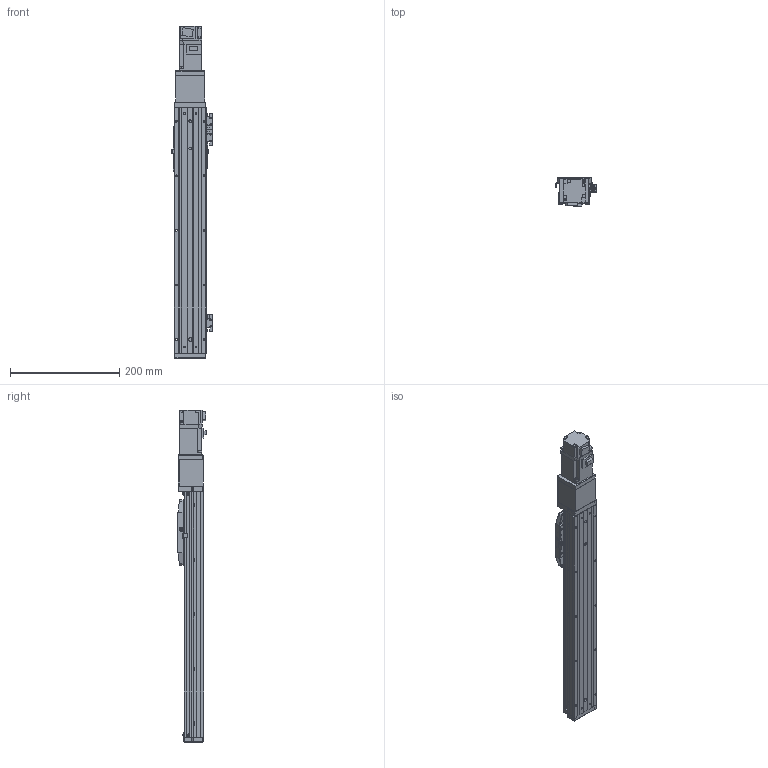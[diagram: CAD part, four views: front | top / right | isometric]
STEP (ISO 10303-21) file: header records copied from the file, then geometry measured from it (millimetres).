
FILE_DESCRIPTION (( 'STEP AP203' ), '1' );
FILE_NAME ('CTHA50-300-BC-M10-C4L.STEP', '2022-09-28T08:38:33', ( '微软用户' ), ( '微软中国' ), 'SwSTEP 2.0', 'SolidWorks 2020', '' );
FILE_SCHEMA (( 'CONFIG_CONTROL_DESIGN' ));
Length unit declared in the file: millimetre
Products named in the file (20): CTHA50-002; CTHA50-031; CTHA60-021; GBT 70.1-M4×12; KTHA50-005; CTHA50-027; CTHA60-016; CTHA50-013; CTHA60-017; EE_SX911P_R; KTHA50-004; GB¨uT 70.2-M3¡Á6_M3¡Á6; HG-KR13（三菱）; CTHA50-006-2_CTHA60-006-2; KTHA50-001_450; CTHA50-030; GBT77-2000 M3×3; CTHA50-300-BC-M10-C4L; GBT 70.1-M3℅6; GBT 70.3-M3℅6
Assembly tree (59 placements, depth 2):
  CTHA50-300-BC-M10-C4L
    KTHA50-001_450
    KTHA50-004
    KTHA50-005
    GB¨uT 70.2-M3¡Á6_M3¡Á6  x10
    EE_SX911P_R  x3
    GBT77-2000 M3×3  x6
    GBT 70.1-M3℅6  x6
    CTHA60-017  x3
    GBT 70.1-M4×12  x10
    CTHA60-016  x2
    CTHA60-021  x2
    CTHA50-027
    CTHA50-006-2_CTHA60-006-2
    CTHA50-013
    HG-KR13（三菱）
    GBT 70.3-M3℅6  x6
    CTHA50-002
    CTHA50-030  x2
    CTHA50-031
Bounding box: 74.12 x 53.3 x 608.6 mm (x, y, z)
Volume: 1016085.4 mm3; surface area: 279854.4 mm2
Topology: 61 solids, 61 shells, 2396 faces, 5682 edges, 3474 vertices
Faces by surface type: plane 1378, cylinder 538, cone 360, torus 96, sphere 24
Entity records: 38698 total; most frequent: CARTESIAN_POINT 6227, DIRECTION 6190, ORIENTED_EDGE 5932, EDGE_CURVE 2966, LINE 2162, VECTOR 2162, AXIS2_PLACEMENT_3D 2014, VERTEX_POINT 1867
